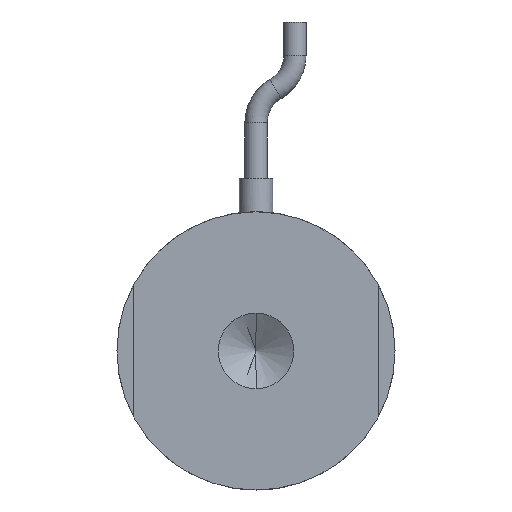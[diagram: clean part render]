
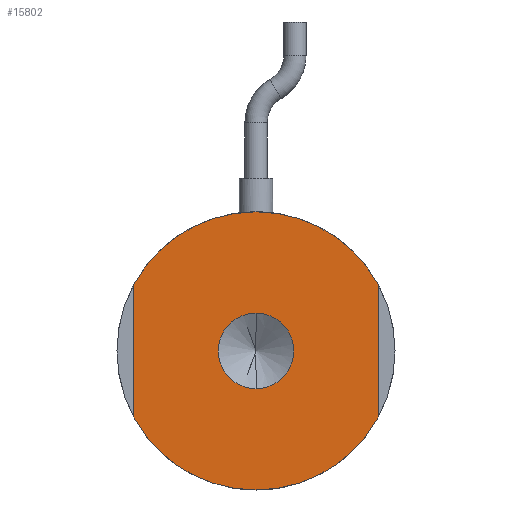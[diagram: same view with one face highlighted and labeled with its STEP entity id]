
A CAD part, front view. The second image highlights one B-rep face of the part: STEP entity #15802.
In plain terms, the highlighted planar face has unit normal (0, -1, 0).
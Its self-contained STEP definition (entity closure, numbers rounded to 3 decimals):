
#48 = AXIS2_PLACEMENT_3D ( 'NONE', #37799, #17344, #41281 ) ;
#812 = VERTEX_POINT ( 'NONE', #8115 ) ;
#980 = CARTESIAN_POINT ( 'NONE',  ( 0., 0., 0. ) ) ;
#1876 = EDGE_CURVE ( 'NONE', #28643, #22344, #31707, .T. ) ;
#2167 = CARTESIAN_POINT ( 'NONE',  ( 11., 0., 0. ) ) ;
#2422 = EDGE_CURVE ( 'NONE', #40302, #19413, #23179, .T. ) ;
#3512 = DIRECTION ( 'NONE',  ( 0., 1., 0. ) ) ;
#3797 = CARTESIAN_POINT ( 'NONE',  ( -11., 0., 0. ) ) ;
#4100 = EDGE_LOOP ( 'NONE', ( #39465, #33006 ) ) ;
#4187 = CARTESIAN_POINT ( 'NONE',  ( 11., 0., 5.937 ) ) ;
#4234 = AXIS2_PLACEMENT_3D ( 'NONE', #11969, #15382, #39293 ) ;
#4411 = DIRECTION ( 'NONE',  ( 0., 0., 1. ) ) ;
#6025 = DIRECTION ( 'NONE',  ( 0., -1., 0. ) ) ;
#6701 = AXIS2_PLACEMENT_3D ( 'NONE', #9419, #33267, #12855 ) ;
#7756 = ORIENTED_EDGE ( 'NONE', *, *, #2422, .F. ) ;
#8018 = EDGE_CURVE ( 'NONE', #812, #40302, #34897, .T. ) ;
#8115 = CARTESIAN_POINT ( 'NONE',  ( 0., 0., 12.5 ) ) ;
#9419 = CARTESIAN_POINT ( 'NONE',  ( 0., 0., 0. ) ) ;
#9467 = CIRCLE ( 'NONE', #6701, 3.4 ) ;
#9934 = VERTEX_POINT ( 'NONE', #31769 ) ;
#10122 = FACE_BOUND ( 'NONE', #4100, .T. ) ;
#11559 = AXIS2_PLACEMENT_3D ( 'NONE', #15644, #39550, #19077 ) ;
#11969 = CARTESIAN_POINT ( 'NONE',  ( 0., 0., 0. ) ) ;
#12437 = AXIS2_PLACEMENT_3D ( 'NONE', #980, #24888, #4411 ) ;
#12855 = DIRECTION ( 'NONE',  ( 0., 0., -1. ) ) ;
#14845 = CIRCLE ( 'NONE', #12437, 12.5 ) ;
#15282 = AXIS2_PLACEMENT_3D ( 'NONE', #26494, #6025, #29904 ) ;
#15382 = DIRECTION ( 'NONE',  ( 0., 1., 0. ) ) ;
#15644 = CARTESIAN_POINT ( 'NONE',  ( 0., 0., 0. ) ) ;
#15802 = ADVANCED_FACE ( 'NONE', ( #10122, #28269 ), #25561, .F. ) ;
#17017 = EDGE_CURVE ( 'NONE', #22344, #18815, #42137, .T. ) ;
#17344 = DIRECTION ( 'NONE',  ( 0., 1., 0. ) ) ;
#17770 = ORIENTED_EDGE ( 'NONE', *, *, #40795, .F. ) ;
#18815 = VERTEX_POINT ( 'NONE', #38569 ) ;
#19077 = DIRECTION ( 'NONE',  ( 0., 0., 1. ) ) ;
#19413 = VERTEX_POINT ( 'NONE', #30222 ) ;
#20704 = CIRCLE ( 'NONE', #15282, 3.4 ) ;
#20913 = EDGE_CURVE ( 'NONE', #18815, #812, #14845, .T. ) ;
#22309 = EDGE_LOOP ( 'NONE', ( #29913, #26499, #17770, #7756, #35247, #29907 ) ) ;
#22344 = VERTEX_POINT ( 'NONE', #31238 ) ;
#23043 = EDGE_CURVE ( 'NONE', #9934, #44072, #9467, .T. ) ;
#23179 = LINE ( 'NONE', #2167, #40270 ) ;
#23993 = CARTESIAN_POINT ( 'NONE',  ( 0., 0., 0. ) ) ;
#24888 = DIRECTION ( 'NONE',  ( 0., 1., 0. ) ) ;
#25561 = PLANE ( 'NONE',  #4234 ) ;
#26060 = DIRECTION ( 'NONE',  ( 0., 0., -1. ) ) ;
#26494 = CARTESIAN_POINT ( 'NONE',  ( 0., 0., 0. ) ) ;
#26499 = ORIENTED_EDGE ( 'NONE', *, *, #1876, .F. ) ;
#27402 = DIRECTION ( 'NONE',  ( 0., 0., 1. ) ) ;
#27952 = AXIS2_PLACEMENT_3D ( 'NONE', #23993, #3512, #27402 ) ;
#28269 = FACE_OUTER_BOUND ( 'NONE', #22309, .T. ) ;
#28643 = VERTEX_POINT ( 'NONE', #34795 ) ;
#29904 = DIRECTION ( 'NONE',  ( 0., 0., -1. ) ) ;
#29907 = ORIENTED_EDGE ( 'NONE', *, *, #20913, .F. ) ;
#29913 = ORIENTED_EDGE ( 'NONE', *, *, #17017, .F. ) ;
#30222 = CARTESIAN_POINT ( 'NONE',  ( 11., 0., -5.937 ) ) ;
#30608 = CARTESIAN_POINT ( 'NONE',  ( 0., 0., -3.4 ) ) ;
#31238 = CARTESIAN_POINT ( 'NONE',  ( -11., 0., -5.937 ) ) ;
#31707 = CIRCLE ( 'NONE', #27952, 12.5 ) ;
#31769 = CARTESIAN_POINT ( 'NONE',  ( 0., 0., 3.4 ) ) ;
#33006 = ORIENTED_EDGE ( 'NONE', *, *, #23043, .F. ) ;
#33027 = VECTOR ( 'NONE', #34518, 1000. ) ;
#33267 = DIRECTION ( 'NONE',  ( 0., -1., 0. ) ) ;
#34518 = DIRECTION ( 'NONE',  ( 0., 0., 1. ) ) ;
#34795 = CARTESIAN_POINT ( 'NONE',  ( 0., 0., -12.5 ) ) ;
#34897 = CIRCLE ( 'NONE', #48, 12.5 ) ;
#35247 = ORIENTED_EDGE ( 'NONE', *, *, #8018, .F. ) ;
#37799 = CARTESIAN_POINT ( 'NONE',  ( 0., 0., 0. ) ) ;
#38569 = CARTESIAN_POINT ( 'NONE',  ( -11., 0., 5.937 ) ) ;
#39293 = DIRECTION ( 'NONE',  ( 0., 0., 1. ) ) ;
#39465 = ORIENTED_EDGE ( 'NONE', *, *, #41384, .F. ) ;
#39550 = DIRECTION ( 'NONE',  ( 0., 1., 0. ) ) ;
#40270 = VECTOR ( 'NONE', #26060, 1000. ) ;
#40302 = VERTEX_POINT ( 'NONE', #4187 ) ;
#40795 = EDGE_CURVE ( 'NONE', #19413, #28643, #42103, .T. ) ;
#41281 = DIRECTION ( 'NONE',  ( 0., 0., 1. ) ) ;
#41384 = EDGE_CURVE ( 'NONE', #44072, #9934, #20704, .T. ) ;
#42103 = CIRCLE ( 'NONE', #11559, 12.5 ) ;
#42137 = LINE ( 'NONE', #3797, #33027 ) ;
#44072 = VERTEX_POINT ( 'NONE', #30608 ) ;
